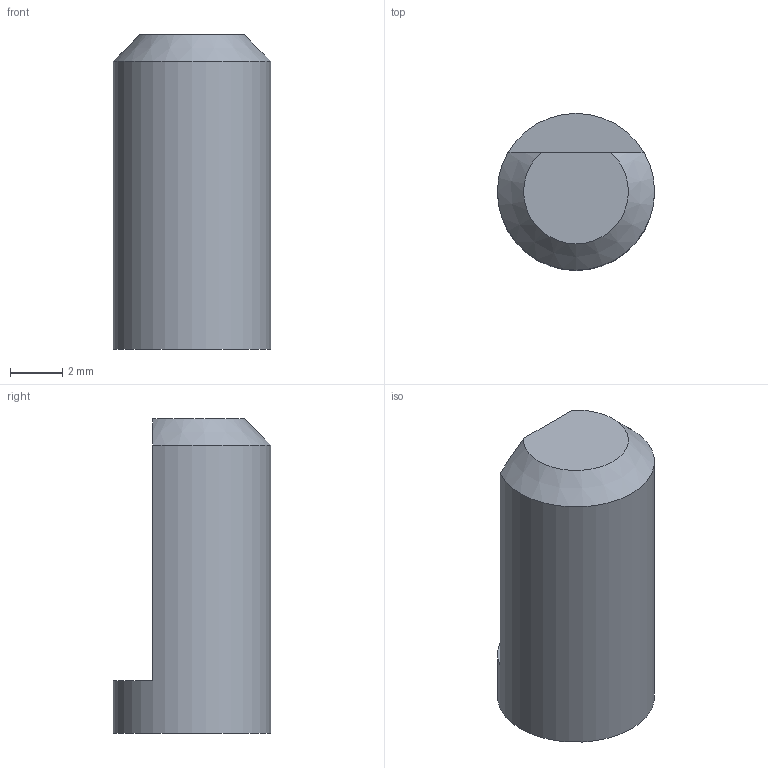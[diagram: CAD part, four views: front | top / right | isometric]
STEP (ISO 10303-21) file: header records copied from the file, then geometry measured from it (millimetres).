
FILE_DESCRIPTION(/* description */ ('STEP AP242 Edition 2','CAx-IF Rec.Pracs.---Representation and Presentation of Product Manufacturing Information (PMI)---4.0---2014-10-13','CAx-IF Rec.Pracs.---3D Tessellated Geometry---0.4---2014-09-14','2;1','CAx-IF Rec.Pracs.---User Defined Attributes---1.5---2016-08-15'),/* implementation_level */ '2;1');
FILE_NAME(/* name */ 'Assembly 1 - SW-TH_EC11E18244A5~SW-TH_EC11E18244A5-L11.7-W12.0-H24.5-P2.5-LS14.5~nxQB (15)',/* time_stamp */ '2026-04-02T09:55:29Z',/* author */ (''),/* organization */ (''),/* preprocessor_version */ 'ST-DEVELOPER v20',/* originating_system */ 'ONSHAPE BY PTC INC, 1.212',/* authorisation */ ' ');
FILE_SCHEMA (('AP242_MANAGED_MODEL_BASED_3D_ENGINEERING_MIM_LF { 1 0 10303 442 3 1 4 }'));
Length unit declared in the file: metre
Products named in the file (1): SW-TH_EC11E18244A5~SW-TH_EC11E18244A5-L11.7-W12.0-H24.5-P2.5-LS14.5~n
xQB
Bounding box: 6 x 6 x 12 mm (x, y, z)
Volume: 278.2 mm3; surface area: 262.7 mm2
Topology: 1 solids, 1 shells, 6 faces, 12 edges, 8 vertices
Faces by surface type: plane 4, cylinder 1, cone 1
Full cylindrical faces by diameter (mm): 6 x1
Entity records: 213 total; most frequent: CARTESIAN_POINT 30, DIRECTION 26, ORIENTED_EDGE 20, AXIS2_PLACEMENT_3D 11, EDGE_CURVE 10, VERTEX_POINT 7, EDGE_LOOP 7, FACE_BOUND 7
